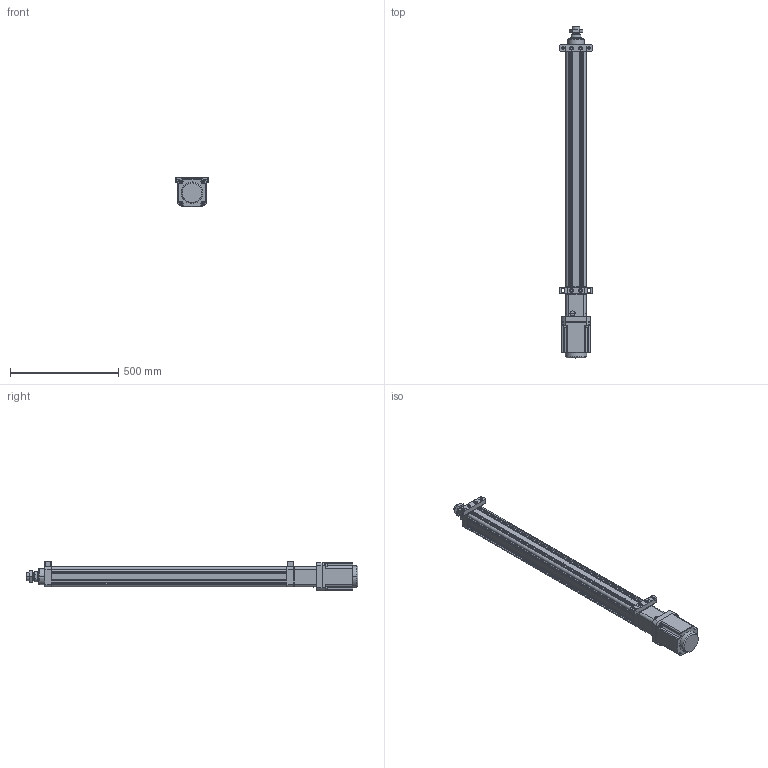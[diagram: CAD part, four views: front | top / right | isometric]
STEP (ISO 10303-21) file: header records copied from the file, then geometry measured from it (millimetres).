
FILE_DESCRIPTION((''),'2;1');
FILE_NAME('HE80-D-P_ASM','2020-04-24T',('ASUS20200'),(''),'CREO PARAMETRIC BY PTC INC, 2014190','CREO PARAMETRIC BY PTC INC, 2014190','');
FILE_SCHEMA(('CONFIG_CONTROL_DESIGN'));
Length unit declared in the file: millimetre
Products named in the file (26): HE80-D-P-001-X1; HE80-D-P-002-X1; HE80-D-P-003-X1; 30304J; YZ-M6X1; SLM-01; JDB506030; HE80-100-D-P-X1_ASM; HE80-D-009-X1; HE80-D-010-X1-130N; M10X110; SKT-20; M8X20; 130ST-M10010; JX6X6X40; TD-8; M8X40; HE80-D-P-005-X1; HE80-D-P-004-X1; HE80-D-P-008-X1; LGLM-M10-25; HE80-P-015-X1; HE80-P-016-X1; TD-10; M10X35; HE80-D-P_ASM
Assembly tree (48 placements, depth 3):
  HE80-D-P_ASM
    HE80-100-D-P-X1_ASM
      HE80-D-P-001-X1
      HE80-D-P-002-X1
      HE80-D-P-003-X1
      30304J  x2
      YZ-M6X1
      SLM-01
      JDB506030
    HE80-D-009-X1
    HE80-D-010-X1-130N
    M10X110  x4
    SKT-20  x2
    M8X20  x4
    130ST-M10010
    JX6X6X40
    TD-8  x4
    M8X40  x4
    HE80-D-P-005-X1
    HE80-D-P-004-X1
    HE80-D-P-008-X1
    LGLM-M10-25  x4
    HE80-P-015-X1
    HE80-P-016-X1
    TD-10  x4
    M10X35  x4
Bounding box: 150 x 1536 x 136.51 mm (x, y, z)
Volume: 6792575.9 mm3; surface area: 1763295.8 mm2
Topology: 47 solids, 74 shells, 1999 faces, 4637 edges, 2839 vertices
Faces by surface type: plane 744, cylinder 572, cone 523, torus 126, sphere 30, bspline 4
Entity records: 44968 total; most frequent: CARTESIAN_POINT 8680, DIRECTION 8034, ORIENTED_EDGE 6940, EDGE_CURVE 3525, AXIS2_PLACEMENT_3D 3089, VERTEX_POINT 2157, VECTOR 1856, LINE 1856
